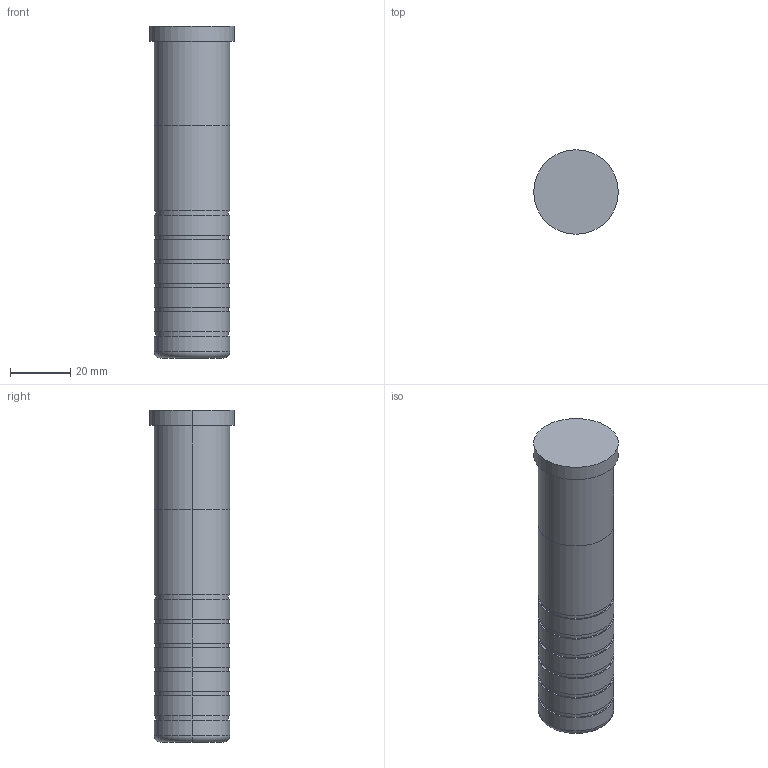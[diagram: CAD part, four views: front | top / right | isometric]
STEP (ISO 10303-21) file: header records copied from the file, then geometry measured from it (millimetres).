
FILE_DESCRIPTION(/* description */ (''),/* implementation_level */ '2;1');
FILE_NAME(/* name */ '3d_sgoh25-110_05204_r00.stp',/* time_stamp */ '2011-01-10T14:11:08+09:00',/* author */ ('MISUMI'),/* organization */ (''),/* preprocessor_version */ 'ST-DEVELOPER v11',/* originating_system */ 'UGS - NX 5.0',/* authorisation */ '');
FILE_SCHEMA (('CONFIG_CONTROL_DESIGN'));
Length unit declared in the file: millimetre
Products named in the file (1): 3d_sgoh25-110_05204_r00
Bounding box: 28 x 28 x 110 mm (x, y, z)
Volume: 54210.2 mm3; surface area: 10273.9 mm2
Topology: 1 solids, 1 shells, 49 faces, 96 edges, 62 vertices
Faces by surface type: cylinder 30, plane 15, torus 4
Entity records: 1374 total; most frequent: DIRECTION 262, CARTESIAN_POINT 208, ORIENTED_EDGE 192, AXIS2_PLACEMENT_3D 116, EDGE_CURVE 96, CIRCLE 66, EDGE_LOOP 62, VERTEX_POINT 62
